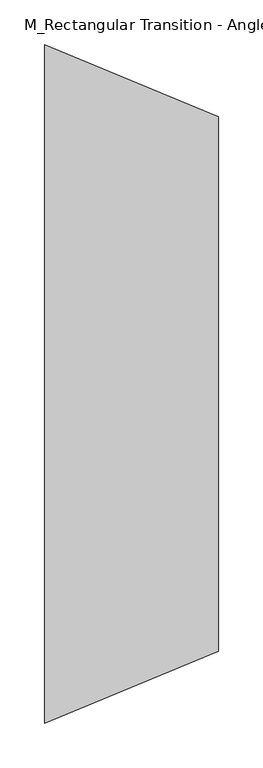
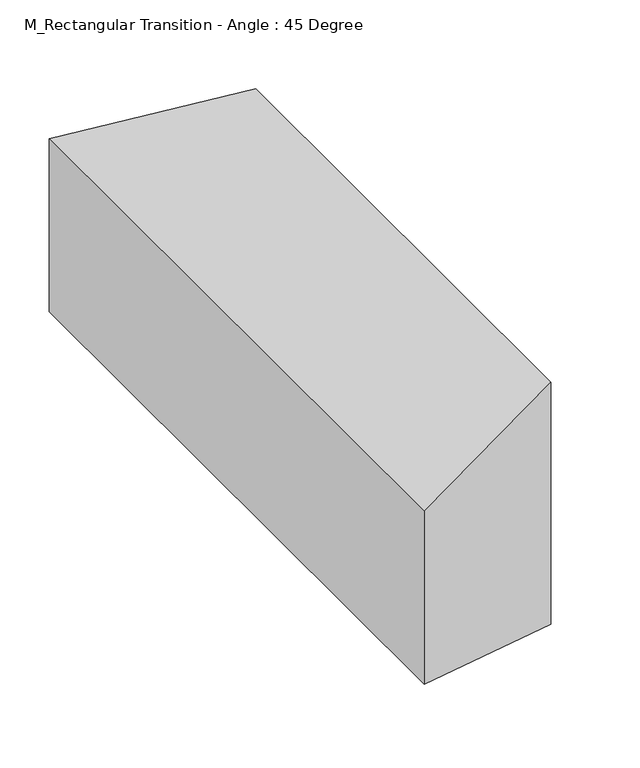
"""IFC4 building model written with IfcOpenShell, lengths in millimetres: duct fitting geometry, M_Rectangular Transition - Angle : 45 Degree."""

from ifc_helpers import new_model, si_unit, origin, place, context, project, spatial, faceted_brep, source, transform, mapped, element, save


def m_rectangular_transition_angle_45_degree_93a96896(model_context):
    return source(origin(), model_context, "Body", "Brep", [
        faceted_brep([(195.4004102, -300.0, 150.0), (195.4004102, -300.0, -150.0), (195.4004102, 300.0, -150.0), (195.4004102, 300.0, 150.0), (0.0, -380.9375, 107.1375), (0.0, 380.9375, 107.1375), (0.0, 380.9375, -107.1375), (0.0, -380.9375, -107.1375)], [[[0, 1, 2, 3]], [[4, 5, 6, 7]], [[4, 7, 1, 0]], [[7, 6, 2, 1]], [[6, 5, 3, 2]], [[5, 4, 0, 3]]]),
    ])


if __name__ == "__main__":
    model = new_model("IFC4")
    model_context = context("Model", 3, world=origin())
    ifc_project = project(units=[si_unit("LENGTHUNIT", "METRE", prefix="MILLI")], contexts=[model_context])
    site = spatial("IfcSite", under=ifc_project)
    building = spatial("IfcBuilding", under=site)
    placement = place(None, origin())
    m_rectangular_transition_angle_45_degree_shape = m_rectangular_transition_angle_45_degree_93a96896(model_context)
    element("IfcDuctFitting", 1, ObjectType="M_Rectangular Transition - Angle : 45 Degree", at=placement, inside=building, context=model_context, shape_type="MappedRepresentation", body=[
        mapped(m_rectangular_transition_angle_45_degree_shape, transform((0.0, 0.0, 0.0), x_axis=(1.0, 0.0, 0.0), y_axis=(0.0, 1.0, 0.0), z_axis=(0.0, 0.0, 1.0))),
    ])
    save(model, "model.ifc")
